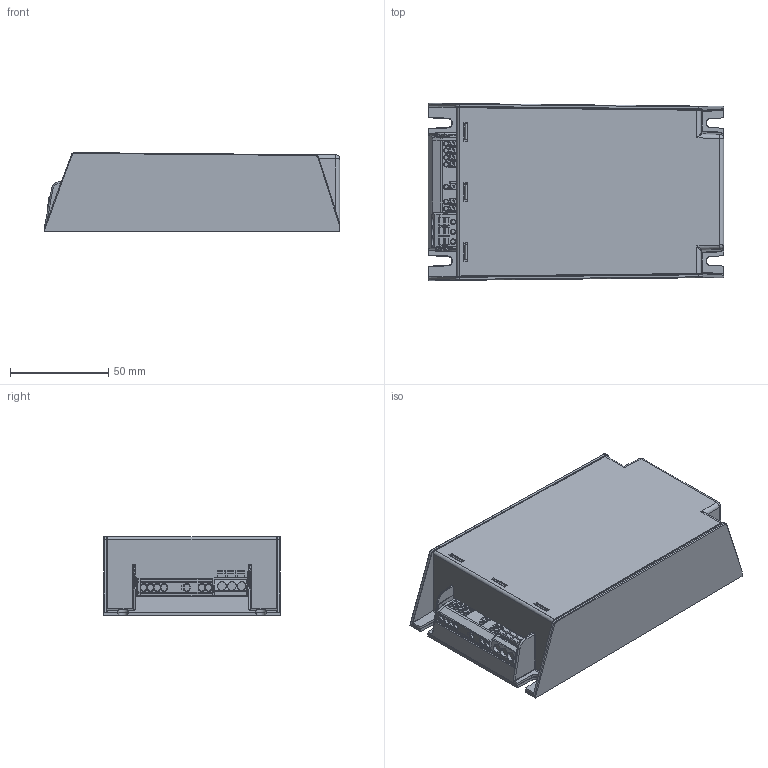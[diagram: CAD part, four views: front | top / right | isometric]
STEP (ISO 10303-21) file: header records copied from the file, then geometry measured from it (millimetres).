
FILE_DESCRIPTION(/* description */ (''),/* implementation_level */ '2;1');
FILE_NAME(/* name */ 'T:\A. Personal folders\Martien NLY10155\KWAN\C-150\Xitanium LITE PROG NL 2015-11-02.stp',/* time_stamp */ '2015-11-02T11:15:11+01:00',/* author */ ('nly10155'),/* organization */ (''),/* preprocessor_version */ 'ST-DEVELOPER v15.2',/* originating_system */ 'Autodesk Inventor 2014',/* authorisation */ '');
FILE_SCHEMA (('AUTOMOTIVE_DESIGN { 1 0 10303 214 3 1 1 }'));
Length unit declared in the file: millimetre
Products named in the file (1): Xitanium LITE PROG NL 2014-02-21
Bounding box: 150 x 90 x 40 mm (x, y, z)
Volume: 468864.9 mm3; surface area: 68383.2 mm2
Topology: 1 solids, 1 shells, 922 faces, 2457 edges, 1575 vertices
Faces by surface type: plane 590, cylinder 243, bspline 52, cone 28, sphere 9
Full cylindrical faces by diameter (mm): 2.1 x7, 2.2 x3, 4.4 x3
Entity records: 32092 total; most frequent: CARTESIAN_POINT 8251, ORIENTED_EDGE 4836, DIRECTION 4643, EDGE_CURVE 2418, LINE 1757, VECTOR 1757, VERTEX_POINT 1571, AXIS2_PLACEMENT_3D 1443
